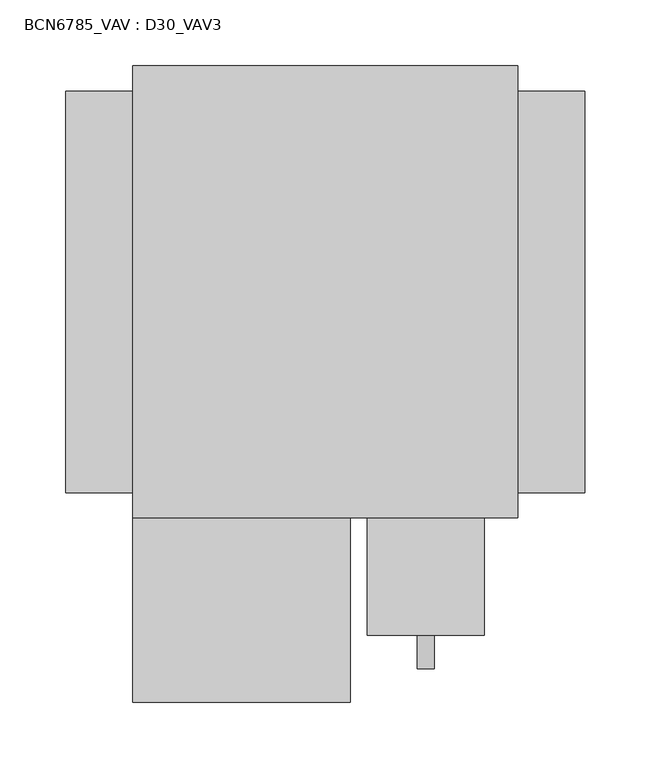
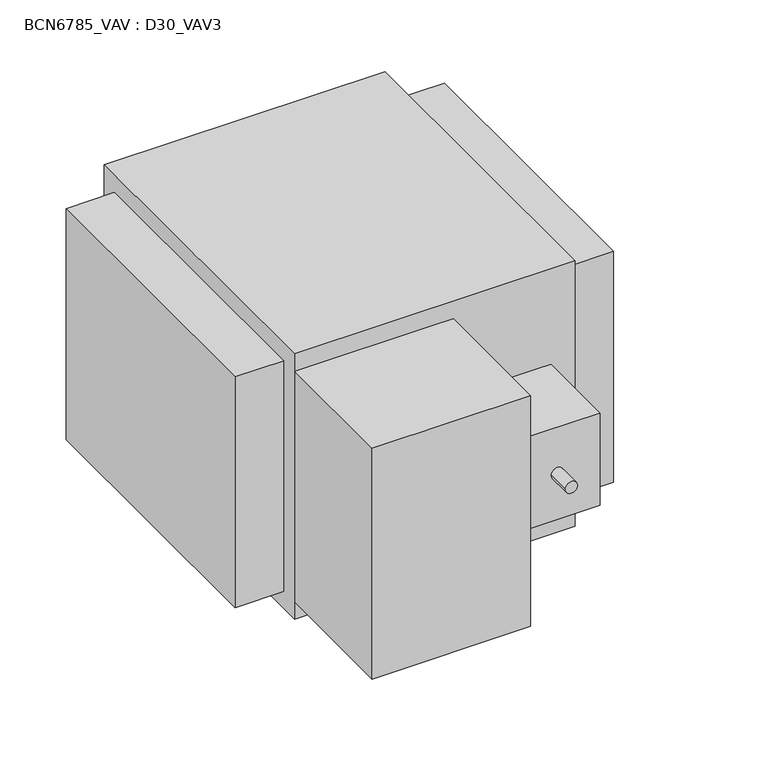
"""IFC4 building model written with IfcOpenShell, lengths in millimetres: proxy geometry, BCN6785_VAV : D30_VAV3."""

from ifc_helpers import new_model, si_unit, frame, origin, origin_with_axes, place, context, project, spatial, polyline, circle_curve, outline, extrude, faceted_brep, source, transform, mapped, element, save
from ifc_brep_helpers import plane_surface, cylinder_surface, advanced_brep


def bcn6785_vav_d30_vav3_6c2f60ad(model_context):
    return source(origin(), model_context, "Body", "SolidModel", [
        extrude(outline(polyline([(292.1, 171.45), (292.1, -171.45), (0.0, -171.45), (0.0, 171.45), (292.1, 171.45)])), origin_with_axes(), (0.0, 0.0, 1.0), 292.1),
        extrude(outline(polyline([(165.1, -311.15), (0.0, -311.15), (0.0, -171.45), (165.1, -171.45), (165.1, -311.15)])), frame((0.0, 0.0, 19.05), z_axis=(0.0, 0.0, 1.0), x_axis=(1.0, 0.0, 0.0)), (0.0, 0.0, 1.0), 254.0),
        advanced_brep(
        [(266.7, -260.35, 187.325), (177.8, -260.35, 187.325), (177.8, -260.35, 85.725), (266.7, -260.35, 85.725), (228.6, -260.35, 136.525), (215.9, -260.35, 136.525), (266.7, -171.45, 187.325), (266.7, -171.45, 85.725), (177.8, -171.45, 85.725), (177.8, -171.45, 187.325), (215.9, -285.75, 136.525), (228.6, -285.75, 136.525)],
        [
            (0, 1),
            (1, 2),
            (2, 3),
            (3, 0),
            (4, 5, circle_curve(frame((222.25, -260.35, 136.525), z_axis=(0.0, 1.0, 0.0), x_axis=(1.0, 0.0, 0.0)), 6.35)),
            (5, 4, circle_curve(frame((222.25, -260.35, 136.525), z_axis=(0.0, 1.0, 0.0), x_axis=(1.0, 0.0, 0.0)), 6.35)),
            (6, 7),
            (7, 8),
            (8, 9),
            (9, 6),
            (0, 6),
            (9, 1),
            (8, 2),
            (7, 3),
            (10, 11, circle_curve(frame((222.25, -285.75, 136.525), z_axis=(0.0, -1.0, 0.0), x_axis=(1.0, 0.0, 0.0)), 6.35)),
            (11, 10, circle_curve(frame((222.25, -285.75, 136.525), z_axis=(0.0, -1.0, 0.0), x_axis=(1.0, 0.0, 0.0)), 6.35)),
            (10, 5),
            (4, 11),
        ],
        [
            plane_surface(frame((177.8, -260.35, 187.325), z_axis=(0.0, -1.0, 0.0), x_axis=(-1.0, 0.0, 0.0))),
            plane_surface(frame((177.8, -171.45, 187.325), z_axis=(0.0, 1.0, 0.0), x_axis=(1.0, 0.0, 0.0))),
            plane_surface(frame((266.7, -260.35, 187.325), z_axis=(0.0, 0.0, 1.0), x_axis=(0.0, 1.0, 0.0))),
            plane_surface(frame((177.8, -260.35, 187.325), z_axis=(-1.0, 0.0, 0.0), x_axis=(0.0, 1.0, 0.0))),
            plane_surface(frame((177.8, -260.35, 85.725), z_axis=(0.0, 0.0, -1.0), x_axis=(0.0, 1.0, 0.0))),
            plane_surface(frame((266.7, -260.35, 85.725), z_axis=(1.0, 0.0, 0.0), x_axis=(0.0, 1.0, 0.0))),
            plane_surface(frame((228.6, -285.75, 136.525), z_axis=(0.0, -1.0, 0.0), x_axis=(0.0, 0.0, 1.0))),
            cylinder_surface(frame((222.25, -171.45, 136.525), z_axis=(0.0, -1.0, 0.0), x_axis=(1.0, 0.0, 0.0)), 6.35),
        ],
        [
            (0, [[1, 2, 3, 4], [5, 6]]),
            (1, [[7, 8, 9, 10]]),
            (2, [[-1, 11, -10, 12]]),
            (3, [[-2, -12, -9, 13]]),
            (4, [[-3, -13, -8, 14]]),
            (5, [[-4, -14, -7, -11]]),
            (6, [[15, 16]]),
            (7, [[-15, 17, -5, 18]]),
            (7, [[-16, -18, -6, -17]]),
        ],
    ),
        faceted_brep([(342.9, 152.4, 273.05), (342.9, -152.4, 273.05), (342.9, -152.4, 19.05), (342.9, 152.4, 19.05), (292.1, 152.4, 273.05), (292.1, 152.4, 19.05), (292.1, -152.4, 19.05), (292.1, -152.4, 273.05)], [[[0, 1, 2, 3]], [[4, 5, 6, 7]], [[1, 0, 4, 7]], [[2, 1, 7, 6]], [[3, 2, 6, 5]], [[0, 3, 5, 4]]]),
        extrude(outline(polyline([(-50.8, -152.4), (-50.8, 152.4), (0.0, 152.4), (0.0, -152.4), (-50.8, -152.4)])), frame((0.0, 0.0, 19.05), z_axis=(0.0, 0.0, 1.0), x_axis=(1.0, 0.0, 0.0)), (0.0, 0.0, 1.0), 254.0),
    ])


if __name__ == "__main__":
    model = new_model("IFC4")
    model_context = context("Model", 3, world=origin())
    ifc_project = project(units=[si_unit("LENGTHUNIT", "METRE", prefix="MILLI")], contexts=[model_context])
    site = spatial("IfcSite", under=ifc_project)
    building = spatial("IfcBuilding", under=site)
    placement = place(None, origin())
    bcn6785_vav_d30_vav3_shape = bcn6785_vav_d30_vav3_6c2f60ad(model_context)
    element("IfcBuildingElementProxy", 1, Name="BCN6785_VAV : D30_VAV3", ObjectType="BCN6785_VAV : D30_VAV3", at=placement, inside=building, context=model_context, shape_type="MappedRepresentation", body=[
        mapped(bcn6785_vav_d30_vav3_shape, transform((0.0, 0.0, 0.0), x_axis=(1.0, 0.0, 0.0), y_axis=(0.0, 1.0, 0.0), z_axis=(0.0, 0.0, 1.0))),
    ])
    save(model, "model.ifc")
